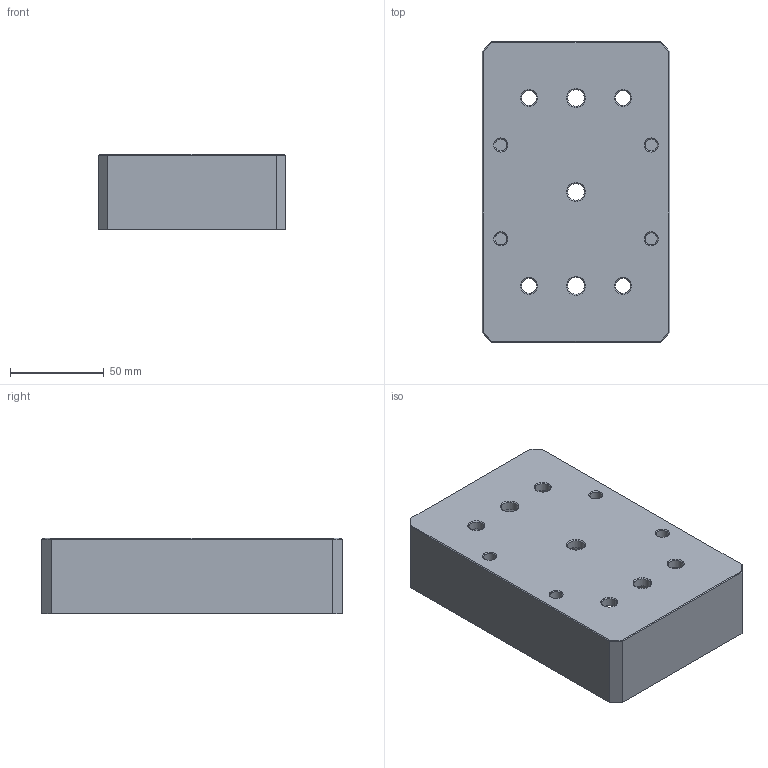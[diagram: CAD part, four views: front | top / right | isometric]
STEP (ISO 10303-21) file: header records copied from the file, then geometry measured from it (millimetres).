
FILE_DESCRIPTION(/* description */ (''),/* implementation_level */ '2;1');
FILE_NAME(/* name */ 'Downside.step',/* time_stamp */ '2023-06-01T14:19:42+02:00',/* author */ (''),/* organization */ (''),/* preprocessor_version */ 'ST-DEVELOPER v19.2',/* originating_system */ 'Autodesk Translation Framework v12.4.0.73',/* authorisation */ '');
FILE_SCHEMA (('AUTOMOTIVE_DESIGN { 1 0 10303 214 3 1 1 }'));
Length unit declared in the file: millimetre
Products named in the file (1): Downside
Bounding box: 100 x 160 x 40.4 mm (x, y, z)
Volume: 356057.6 mm3; surface area: 66639.2 mm2
Topology: 1 solids, 1 shells, 77 faces, 182 edges, 113 vertices
Faces by surface type: plane 35, bspline 16, cylinder 15, cone 11
Full cylindrical faces by diameter (mm): 6.5 x4, 8 x4, 9 x3
Entity records: 11930 total; most frequent: CARTESIAN_POINT 10173, ORIENTED_EDGE 364, DIRECTION 314, EDGE_CURVE 182, VERTEX_POINT 113, LINE 106, VECTOR 106, AXIS2_PLACEMENT_3D 104
